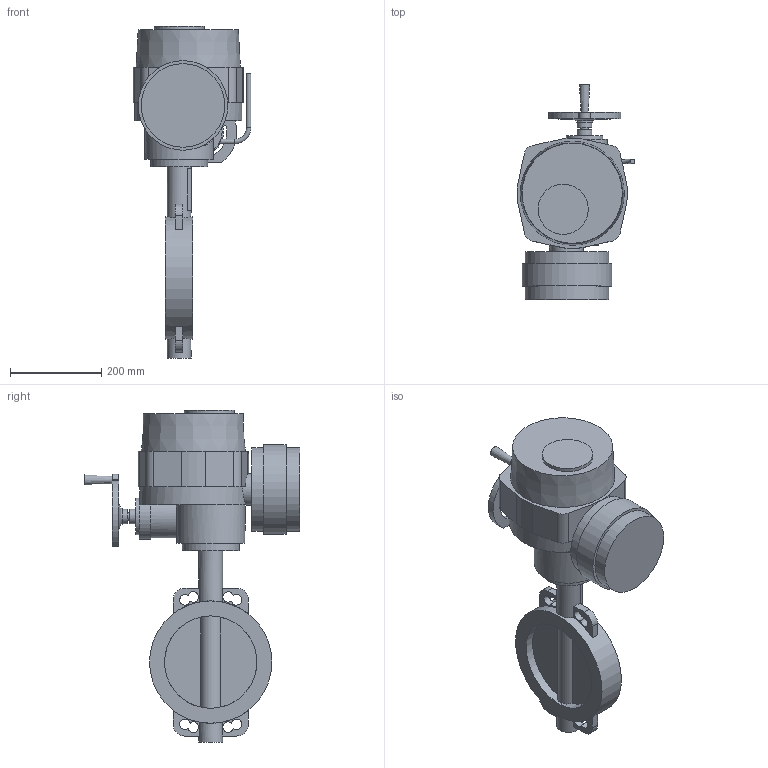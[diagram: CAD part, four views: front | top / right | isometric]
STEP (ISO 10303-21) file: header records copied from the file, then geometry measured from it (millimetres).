
FILE_DESCRIPTION(('STEP AP203'), '1');
FILE_NAME('Çàòâîð 017W.Z(÷óãóí) DN200+ÝÏ QT.A030', '', ('UNSPECIFIED'), ('UNSPECIFIED'), 'ASCON STEP Converter 1.6', 'ASCON Math Kernel', '');
FILE_SCHEMA(('CONFIG_CONTROL_DESIGN'));
Length unit declared in the file: millimetre
Bounding box: 257.68 x 472 x 727 mm (x, y, z)
Volume: 14315401.2 mm3; surface area: 763468.6 mm2
Topology: 1 solids, 2 shells, 872 faces, 2526 edges, 1628 vertices
Faces by surface type: cylinder 649, plane 219, cone 3, torus 1
Full cylindrical faces by diameter (mm): 6.7 x8, 10 x2, 12 x4, 16 x1, 22.1 x1, 32 x2, 35 x2, 52 x2, 70 x2, 80 x1, 100 x1, 110 x1, 125 x1, 150 x1, 183 x2, 196 x1, 202.4 x2, 268 x1
Entity records: 37391 total; most frequent: CARTESIAN_POINT 6227, DIRECTION 5595, ORIENTED_EDGE 4898, EDGE_CURVE 2488, AXIS2_PLACEMENT_3D 2258, VERTEX_POINT 1628, CIRCLE 1385, LINE 1079
